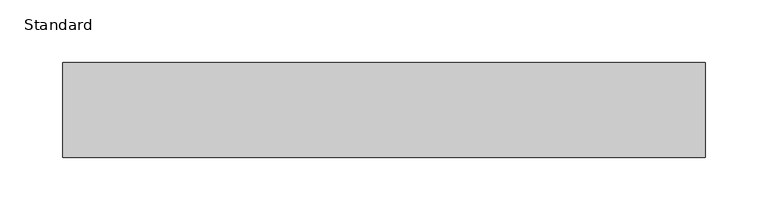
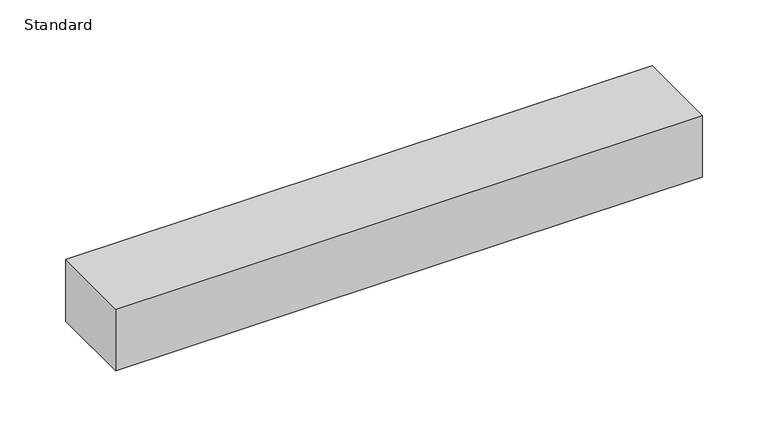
"""IFC4 building model written with IfcOpenShell, lengths in millimetres: proxy geometry, Raceway-ALA3800_Series-Wiremold-Steel : Standard."""

from ifc_helpers import new_model, si_unit, origin, origin_with_axes, place, context, project, spatial, polyline, outline, extrude, source, transform, mapped, element, save


def standard_0f524210(model_context):
    return source(origin(), model_context, "Body", "SweptSolid", [
        extrude(outline(polyline([(514.35, 38.1), (514.35, -38.1), (0.0, -38.1), (0.0, 38.1), (514.35, 38.1)])), origin_with_axes(), (0.0, 0.0, 1.0), 57.15),
    ])


if __name__ == "__main__":
    model = new_model("IFC4")
    model_context = context("Model", 3, world=origin())
    ifc_project = project(units=[si_unit("LENGTHUNIT", "METRE", prefix="MILLI")], contexts=[model_context])
    site = spatial("IfcSite", under=ifc_project)
    building = spatial("IfcBuilding", under=site)
    placement = place(None, origin())
    standard_shape = standard_0f524210(model_context)
    element("IfcBuildingElementProxy", 1, Name="Raceway-ALA3800_Series-Wiremold-Steel : Standard", ObjectType="Raceway-ALA3800_Series-Wiremold-Steel : Standard", at=placement, inside=building, context=model_context, shape_type="MappedRepresentation", body=[
        mapped(standard_shape, transform((0.0, 0.0, 0.0), x_axis=(1.0, 0.0, 0.0), y_axis=(0.0, 1.0, 0.0), z_axis=(0.0, 0.0, 1.0))),
    ])
    save(model, "model.ifc")
